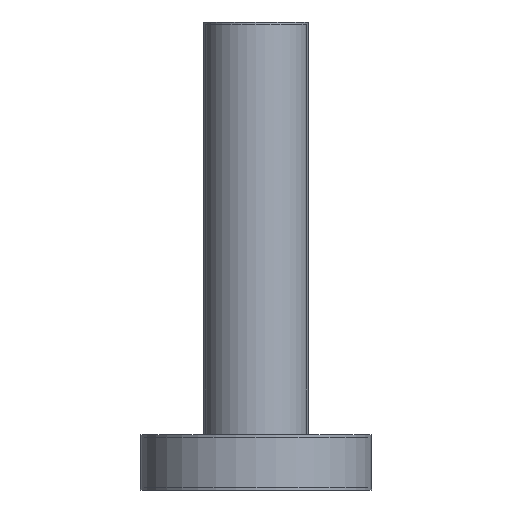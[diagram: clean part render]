
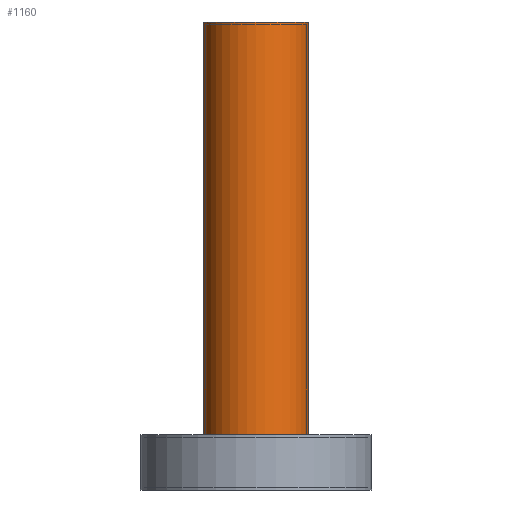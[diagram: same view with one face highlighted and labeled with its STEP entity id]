
A CAD part, left-side view. The second image highlights one B-rep face of the part: STEP entity #1160.
In plain terms, the highlighted cylindrical face has radius 241.3 mm (diameter 482.6 mm), a partial arc.
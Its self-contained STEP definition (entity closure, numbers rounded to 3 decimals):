
#37 = AXIS2_PLACEMENT_3D ( 'NONE', #1095, #408, #583 ) ;
#57 = VERTEX_POINT ( 'NONE', #1410 ) ;
#178 = EDGE_CURVE ( 'NONE', #57, #981, #855, .T. ) ;
#244 = AXIS2_PLACEMENT_3D ( 'NONE', #329, #2056, #1296 ) ;
#310 = EDGE_CURVE ( 'NONE', #770, #981, #341, .T. ) ;
#329 = CARTESIAN_POINT ( 'NONE',  ( 0., 0., 0. ) ) ;
#341 = CIRCLE ( 'NONE', #244, 241.3 ) ;
#408 = DIRECTION ( 'NONE',  ( 0., 0., -1. ) ) ;
#447 = VERTEX_POINT ( 'NONE', #1795 ) ;
#583 = DIRECTION ( 'NONE',  ( 0., 1., 0. ) ) ;
#616 = CARTESIAN_POINT ( 'NONE',  ( 0., 241.3, 0. ) ) ;
#770 = VERTEX_POINT ( 'NONE', #848 ) ;
#790 = AXIS2_PLACEMENT_3D ( 'NONE', #1277, #1444, #799 ) ;
#799 = DIRECTION ( 'NONE',  ( 0., 1., 0. ) ) ;
#817 = CARTESIAN_POINT ( 'NONE',  ( 0., -241.3, 0. ) ) ;
#820 = DIRECTION ( 'NONE',  ( 0., 0., -1. ) ) ;
#822 = CARTESIAN_POINT ( 'NONE',  ( 0., -241.3, 0. ) ) ;
#848 = CARTESIAN_POINT ( 'NONE',  ( 0., 241.3, 0. ) ) ;
#855 = LINE ( 'NONE', #822, #907 ) ;
#872 = EDGE_CURVE ( 'NONE', #57, #447, #2066, .T. ) ;
#907 = VECTOR ( 'NONE', #1467, 1000. ) ;
#981 = VERTEX_POINT ( 'NONE', #817 ) ;
#1095 = CARTESIAN_POINT ( 'NONE',  ( 0., 0., 0. ) ) ;
#1160 = ADVANCED_FACE ( 'NONE', ( #1551 ), #1706, .T. ) ;
#1176 = ORIENTED_EDGE ( 'NONE', *, *, #310, .T. ) ;
#1277 = CARTESIAN_POINT ( 'NONE',  ( 0., 0., 1905. ) ) ;
#1296 = DIRECTION ( 'NONE',  ( 0., 1., 0. ) ) ;
#1410 = CARTESIAN_POINT ( 'NONE',  ( 0., -241.3, 1905. ) ) ;
#1444 = DIRECTION ( 'NONE',  ( 0., 0., -1. ) ) ;
#1456 = LINE ( 'NONE', #616, #1538 ) ;
#1467 = DIRECTION ( 'NONE',  ( 0., 0., -1. ) ) ;
#1468 = EDGE_LOOP ( 'NONE', ( #1805, #1542, #1513, #1176 ) ) ;
#1513 = ORIENTED_EDGE ( 'NONE', *, *, #1736, .T. ) ;
#1538 = VECTOR ( 'NONE', #820, 1000. ) ;
#1542 = ORIENTED_EDGE ( 'NONE', *, *, #872, .T. ) ;
#1551 = FACE_OUTER_BOUND ( 'NONE', #1468, .T. ) ;
#1706 = CYLINDRICAL_SURFACE ( 'NONE', #37, 241.3 ) ;
#1736 = EDGE_CURVE ( 'NONE', #447, #770, #1456, .T. ) ;
#1795 = CARTESIAN_POINT ( 'NONE',  ( 0., 241.3, 1905. ) ) ;
#1805 = ORIENTED_EDGE ( 'NONE', *, *, #178, .F. ) ;
#2056 = DIRECTION ( 'NONE',  ( 0., 0., 1. ) ) ;
#2066 = CIRCLE ( 'NONE', #790, 241.3 ) ;
